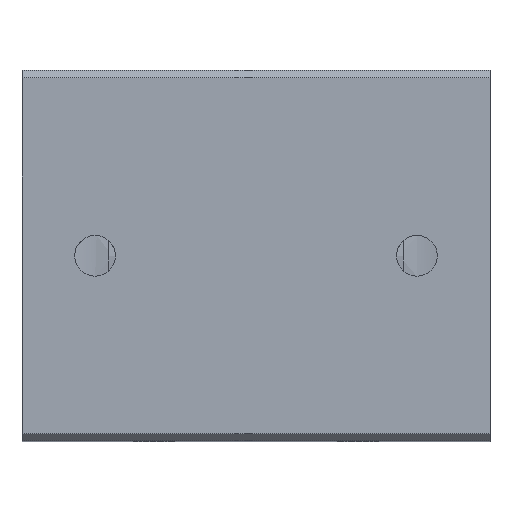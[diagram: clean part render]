
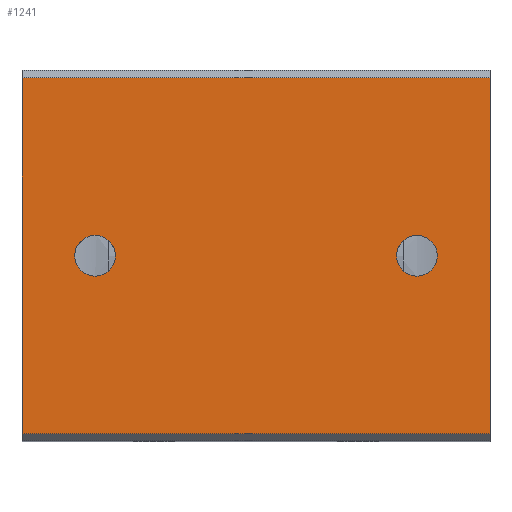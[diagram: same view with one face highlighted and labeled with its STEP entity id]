
A CAD part, top view. The second image highlights one B-rep face of the part: STEP entity #1241.
In plain terms, the highlighted planar face has unit normal (0, 0, 1).
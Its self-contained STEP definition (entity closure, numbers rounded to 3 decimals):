
#28 = EDGE_CURVE ( 'NONE', #211, #211, #570, .T. ) ;
#58 = EDGE_CURVE ( 'NONE', #1824, #1538, #1005, .T. ) ;
#68 = CARTESIAN_POINT ( 'NONE',  ( 15., 0., 50. ) ) ;
#94 = DIRECTION ( 'NONE',  ( 1., 0., 0. ) ) ;
#145 = VECTOR ( 'NONE', #485, 1000. ) ;
#165 = EDGE_LOOP ( 'NONE', ( #1309, #968, #1432, #2177 ) ) ;
#200 = VECTOR ( 'NONE', #2018, 1000. ) ;
#211 = VERTEX_POINT ( 'NONE', #1421 ) ;
#265 = CARTESIAN_POINT ( 'NONE',  ( 81., 0., 50. ) ) ;
#268 = AXIS2_PLACEMENT_3D ( 'NONE', #265, #2081, #984 ) ;
#485 = DIRECTION ( 'NONE',  ( 0., 1., 0. ) ) ;
#565 = AXIS2_PLACEMENT_3D ( 'NONE', #68, #1477, #94 ) ;
#570 = CIRCLE ( 'NONE', #268, 4.188 ) ;
#635 = LINE ( 'NONE', #2246, #145 ) ;
#638 = ORIENTED_EDGE ( 'NONE', *, *, #2051, .T. ) ;
#643 = EDGE_CURVE ( 'NONE', #913, #1672, #1494, .T. ) ;
#700 = CARTESIAN_POINT ( 'NONE',  ( 96., -36.5, 50. ) ) ;
#704 = CARTESIAN_POINT ( 'NONE',  ( 96., 36.5, 50. ) ) ;
#749 = VECTOR ( 'NONE', #1859, 1000. ) ;
#754 = CARTESIAN_POINT ( 'NONE',  ( 0., 36.5, 50. ) ) ;
#762 = DIRECTION ( 'NONE',  ( 0., 0., 1. ) ) ;
#777 = CARTESIAN_POINT ( 'NONE',  ( 0., -36.5, 50. ) ) ;
#821 = CIRCLE ( 'NONE', #565, 4.188 ) ;
#866 = EDGE_LOOP ( 'NONE', ( #892 ) ) ;
#892 = ORIENTED_EDGE ( 'NONE', *, *, #28, .T. ) ;
#913 = VERTEX_POINT ( 'NONE', #700 ) ;
#968 = ORIENTED_EDGE ( 'NONE', *, *, #1677, .T. ) ;
#984 = DIRECTION ( 'NONE',  ( 1., 0., 0. ) ) ;
#991 = EDGE_CURVE ( 'NONE', #1672, #1824, #635, .T. ) ;
#1005 = LINE ( 'NONE', #1871, #1528 ) ;
#1197 = DIRECTION ( 'NONE',  ( 1., 0., 0. ) ) ;
#1225 = AXIS2_PLACEMENT_3D ( 'NONE', #1492, #762, #1624 ) ;
#1241 = ADVANCED_FACE ( 'NONE', ( #1471, #2004, #2171 ), #1652, .T. ) ;
#1309 = ORIENTED_EDGE ( 'NONE', *, *, #643, .F. ) ;
#1322 = VERTEX_POINT ( 'NONE', #2066 ) ;
#1333 = CARTESIAN_POINT ( 'NONE',  ( 96., -38., 50. ) ) ;
#1421 = CARTESIAN_POINT ( 'NONE',  ( 85.188, 0., 50. ) ) ;
#1432 = ORIENTED_EDGE ( 'NONE', *, *, #58, .F. ) ;
#1471 = FACE_BOUND ( 'NONE', #1548, .T. ) ;
#1477 = DIRECTION ( 'NONE',  ( 0., 0., -1. ) ) ;
#1492 = CARTESIAN_POINT ( 'NONE',  ( 0., -38., 50. ) ) ;
#1494 = LINE ( 'NONE', #2006, #200 ) ;
#1528 = VECTOR ( 'NONE', #1197, 1000. ) ;
#1538 = VERTEX_POINT ( 'NONE', #704 ) ;
#1548 = EDGE_LOOP ( 'NONE', ( #638 ) ) ;
#1624 = DIRECTION ( 'NONE',  ( 1., 0., 0. ) ) ;
#1652 = PLANE ( 'NONE',  #1225 ) ;
#1672 = VERTEX_POINT ( 'NONE', #777 ) ;
#1677 = EDGE_CURVE ( 'NONE', #913, #1538, #2012, .T. ) ;
#1824 = VERTEX_POINT ( 'NONE', #754 ) ;
#1859 = DIRECTION ( 'NONE',  ( 0., 1., 0. ) ) ;
#1871 = CARTESIAN_POINT ( 'NONE',  ( 0., 36.5, 50. ) ) ;
#2004 = FACE_BOUND ( 'NONE', #866, .T. ) ;
#2006 = CARTESIAN_POINT ( 'NONE',  ( 0., -36.5, 50. ) ) ;
#2012 = LINE ( 'NONE', #1333, #749 ) ;
#2018 = DIRECTION ( 'NONE',  ( -1., 0., 0. ) ) ;
#2051 = EDGE_CURVE ( 'NONE', #1322, #1322, #821, .T. ) ;
#2066 = CARTESIAN_POINT ( 'NONE',  ( 19.188, 0., 50. ) ) ;
#2081 = DIRECTION ( 'NONE',  ( 0., 0., -1. ) ) ;
#2171 = FACE_OUTER_BOUND ( 'NONE', #165, .T. ) ;
#2177 = ORIENTED_EDGE ( 'NONE', *, *, #991, .F. ) ;
#2246 = CARTESIAN_POINT ( 'NONE',  ( 0., -38., 50. ) ) ;
